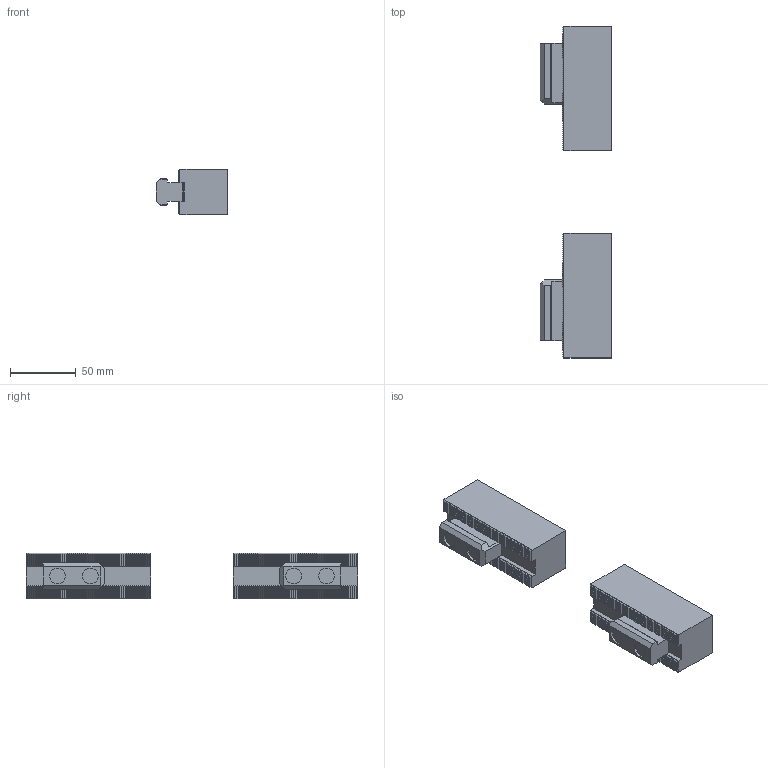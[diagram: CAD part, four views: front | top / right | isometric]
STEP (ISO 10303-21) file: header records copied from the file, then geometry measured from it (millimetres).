
FILE_DESCRIPTION (( 'STEP AP214' ), '1' );
FILE_NAME ('MLT08_61P246075-6_UC.STEP', '2020-04-01T08:33:48', ( '' ), ( '' ), 'SwSTEP 2.0', 'SolidWorks 2017', '' );
FILE_SCHEMA (( 'AUTOMOTIVE_DESIGN' ));
Length unit declared in the file: millimetre
Products named in the file (5): MLT08_BASE^61P245485_MLT08_ASSY; B傾僫僣僉 M12亊30_1; 61P417260 TNUT_ﾃﾞﾌｫﾙﾄ（簡易モデル）; 61P314548-4_ソフトジョー; MLT08_61P246075-6_UC
Assembly tree (9 placements, depth 2):
  MLT08_61P246075-6_UC
    61P314548-4_ソフトジョー  x2
    61P417260 TNUT_ﾃﾞﾌｫﾙﾄ（簡易モデル）  x2
    B傾僫僣僉 M12亊30_1  x4
    MLT08_BASE^61P245485_MLT08_ASSY
Bounding box: 54.7 x 253.17 x 35 mm (x, y, z)
Volume: 250452.1 mm3; surface area: 63136.2 mm2
Topology: 8 solids, 8 shells, 940 faces, 2716 edges, 1804 vertices
Faces by surface type: plane 880, cylinder 44, cone 16
Entity records: 86092 total; most frequent: CARTESIAN_POINT 15769, ORIENTED_EDGE 10461, DIRECTION 9314, EDGE_CURVE 5235, LINE 4296, VECTOR 4296, VERTEX_POINT 3438, AXIS2_PLACEMENT_3D 2509
